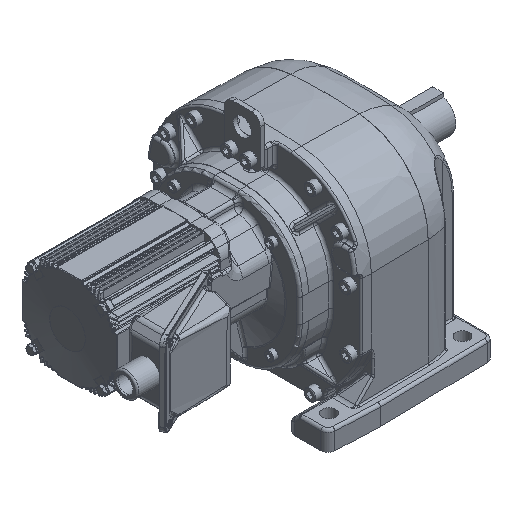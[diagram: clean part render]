
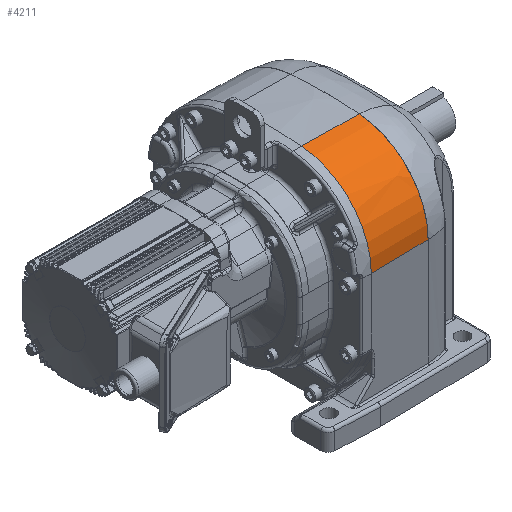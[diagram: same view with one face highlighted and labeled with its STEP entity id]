
A CAD part, isometric view. The second image highlights one B-rep face of the part: STEP entity #4211.
In plain terms, the highlighted free-form (B-spline) face has degree [2, 2] with [4, 3] control points.
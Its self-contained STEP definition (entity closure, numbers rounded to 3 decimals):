
#4211 = ADVANCED_FACE( '', ( #10407 ), #10408, .T. );
#10407 = FACE_OUTER_BOUND( '', #30782, .T. );
#10408 = ( BOUNDED_SURFACE(  )B_SPLINE_SURFACE( 2, 2, ( ( #30785, #30786, #30787 ), ( #30788, #30789, #30790 ), ( #30791, #30792, #30793 ), ( #30794, #30795, #30796 ) ), .UNSPECIFIED., .F., .F., .F. )B_SPLINE_SURFACE_WITH_KNOTS( ( 3, 1, 3 ), ( 3, 3 ), ( 0., 0.2, 1. ), ( 0., 1. ), .UNSPECIFIED. )GEOMETRIC_REPRESENTATION_ITEM(  )RATIONAL_B_SPLINE_SURFACE( ( ( 1., 0.734, 1. ), ( 1., 0.734, 1. ), ( 1., 0.734, 1. ), ( 1., 0.734, 1. ) ) )REPRESENTATION_ITEM( '' )SURFACE(  ) );
#30782 = EDGE_LOOP( '', ( #74120, #74121, #74122, #74123 ) );
#30785 = CARTESIAN_POINT( '', ( 65.03, -38.466, 82.375 ) );
#30786 = CARTESIAN_POINT( '', ( 65.03, -115.86, 76.389 ) );
#30787 = CARTESIAN_POINT( '', ( 65.03, -115.86, -1.236 ) );
#30788 = CARTESIAN_POINT( '', ( 58.527, -38.504, 82.486 ) );
#30789 = CARTESIAN_POINT( '', ( 58.527, -115.974, 76.493 ) );
#30790 = CARTESIAN_POINT( '', ( 58.527, -115.974, -1.237 ) );
#30791 = CARTESIAN_POINT( '', ( 26.012, -38.498, 83.058 ) );
#30792 = CARTESIAN_POINT( '', ( 26.012, -116.544, 77.024 ) );
#30793 = CARTESIAN_POINT( '', ( 26.012, -116.544, -1.234 ) );
#30794 = CARTESIAN_POINT( '', ( 0., -38.554, 83.511 ) );
#30795 = CARTESIAN_POINT( '', ( 0., -117., 77.444 ) );
#30796 = CARTESIAN_POINT( '', ( 0., -117., -1.236 ) );
#74120 = ORIENTED_EDGE( '', *, *, #92996, .T. );
#74121 = ORIENTED_EDGE( '', *, *, #92997, .F. );
#74122 = ORIENTED_EDGE( '', *, *, #92998, .F. );
#74123 = ORIENTED_EDGE( '', *, *, #92999, .F. );
#92996 = EDGE_CURVE( '', #104123, #104124, #104125, .T. );
#92997 = EDGE_CURVE( '', #104126, #104124, #104127, .T. );
#92998 = EDGE_CURVE( '', #104128, #104126, #104129, .T. );
#92999 = EDGE_CURVE( '', #104123, #104128, #104130, .T. );
#104123 = VERTEX_POINT( '', #128375 );
#104124 = VERTEX_POINT( '', #128376 );
#104125 = B_SPLINE_CURVE_WITH_KNOTS( '', 2, ( #128377, #128378, #128379, #128380 ), .UNSPECIFIED., .F., .F., ( 3, 1, 3 ), ( 0., 0.2, 1. ), .UNSPECIFIED. );
#104126 = VERTEX_POINT( '', #128381 );
#104127 = CIRCLE( '', #128382, 85. );
#104128 = VERTEX_POINT( '', #128383 );
#104129 = B_SPLINE_CURVE_WITH_KNOTS( '', 2, ( #128384, #128385, #128386, #128387 ), .UNSPECIFIED., .F., .F., ( 3, 1, 3 ), ( 0., 0.2, 1. ), .UNSPECIFIED. );
#104130 = CIRCLE( '', #128388, 83.86 );
#128375 = CARTESIAN_POINT( '', ( 65.03, -38.466, 82.375 ) );
#128376 = CARTESIAN_POINT( '', ( 0., -38.554, 83.511 ) );
#128377 = CARTESIAN_POINT( '', ( 65.03, -38.466, 82.375 ) );
#128378 = CARTESIAN_POINT( '', ( 58.527, -38.504, 82.486 ) );
#128379 = CARTESIAN_POINT( '', ( 26.012, -38.498, 83.058 ) );
#128380 = CARTESIAN_POINT( '', ( 0., -38.554, 83.511 ) );
#128381 = CARTESIAN_POINT( '', ( 0., -117., -1.236 ) );
#128382 = AXIS2_PLACEMENT_3D( '', #154852, #154853, #154854 );
#128383 = CARTESIAN_POINT( '', ( 65.03, -115.86, -1.236 ) );
#128384 = CARTESIAN_POINT( '', ( 65.03, -115.86, -1.236 ) );
#128385 = CARTESIAN_POINT( '', ( 58.527, -115.974, -1.237 ) );
#128386 = CARTESIAN_POINT( '', ( 26.012, -116.544, -1.234 ) );
#128387 = CARTESIAN_POINT( '', ( 0., -117., -1.236 ) );
#128388 = AXIS2_PLACEMENT_3D( '', #154855, #154856, #154857 );
#154852 = CARTESIAN_POINT( '', ( 0., -32., -1.236 ) );
#154853 = DIRECTION( '', ( -1., 0., 0. ) );
#154854 = DIRECTION( '', ( 0., 1., 0. ) );
#154855 = CARTESIAN_POINT( '', ( 65.03, -32., -1.236 ) );
#154856 = DIRECTION( '', ( 1., 0., 0. ) );
#154857 = DIRECTION( '', ( 0., -0.077, 0.997 ) );
